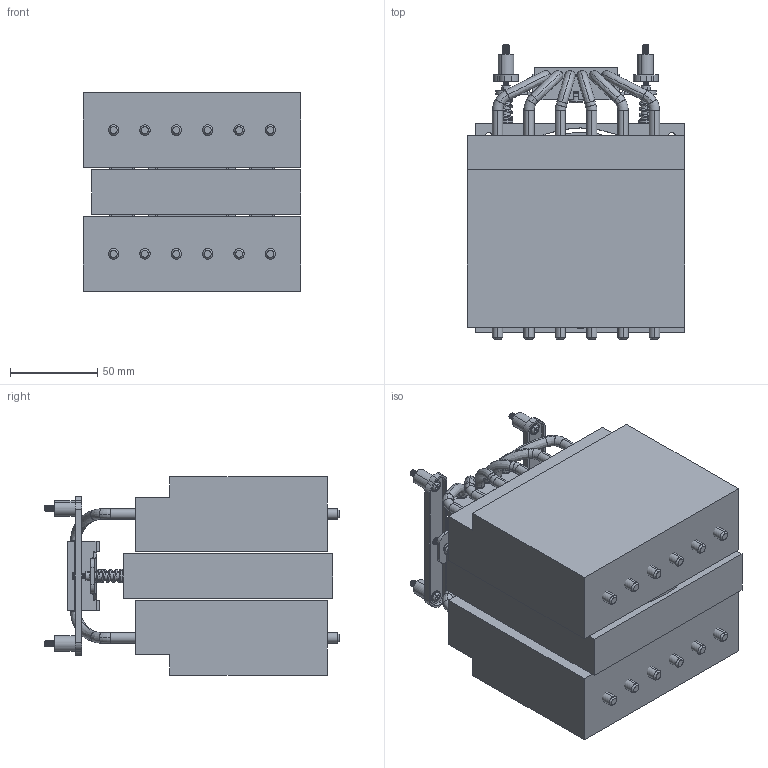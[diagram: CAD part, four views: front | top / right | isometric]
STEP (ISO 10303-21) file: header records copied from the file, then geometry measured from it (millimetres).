
FILE_DESCRIPTION (( 'STEP AP214' ), '1' );
FILE_NAME ('RGD3420 ME.STEP', '2023-07-24T09:59:43', ( '' ), ( '' ), 'SwSTEP 2.0', 'SolidWorks 2019', '' );
FILE_SCHEMA (( 'AUTOMOTIVE_DESIGN' ));
Length unit declared in the file: millimetre
Products named in the file (22): 2; RGD3420 for LGA 1700 螺絲; 3D_ASM; PRT0002; 錨璃102; AV-TH-202302LI03_Fan-轉子-ME_A; RGD3420 for LGA 1700 螺帽_螺絲; M6; G5; 3D_1_ASM; G6; G4; RGD3420 for LGA 1700 扣件; AV-TH-202302LI03_Fan-定子-ME_A; 2016H; PRT0003; RGF420&RGD3420ME; AV-TH-202302LI03_Fan-asm-ME_A; RGD3420 ME; 1; KAHUANG-001-12183_1; SCREW-M3-29-12180_1
Assembly tree (32 placements, depth 4):
  RGD3420 ME
    2016H
    SCREW-M3-29-12180_1
    KAHUANG-001-12183_1
    PRT0002
    PRT0003
    M6
    3D_ASM
      3D_1_ASM
        G6  x2
        G4  x2
        G5  x2
    1
    2
    錨璃102  x2
    AV-TH-202302LI03_Fan-asm-ME_A
      AV-TH-202302LI03_Fan-定子-ME_A
      AV-TH-202302LI03_Fan-轉子-ME_A
    RGF420&RGD3420ME
    RGD3420 for LGA 1700 扣件  x2
    RGD3420 for LGA 1700 螺帽_螺絲  x4
    RGD3420 for LGA 1700 螺絲  x4
Bounding box: 125 x 168.85 x 114 mm (x, y, z)
Volume: 1570010.9 mm3; surface area: 226207.3 mm2
Topology: 30 solids, 30 shells, 1166 faces, 3017 edges, 1942 vertices
Faces by surface type: cylinder 556, plane 382, bspline 158, torus 46, cone 24
Entity records: 43228 total; most frequent: CARTESIAN_POINT 21451, ORIENTED_EDGE 3542, DIRECTION 2793, EDGE_CURVE 1771, VERTEX_POINT 1146, AXIS2_PLACEMENT_3D 972, VECTOR 849, LINE 849
